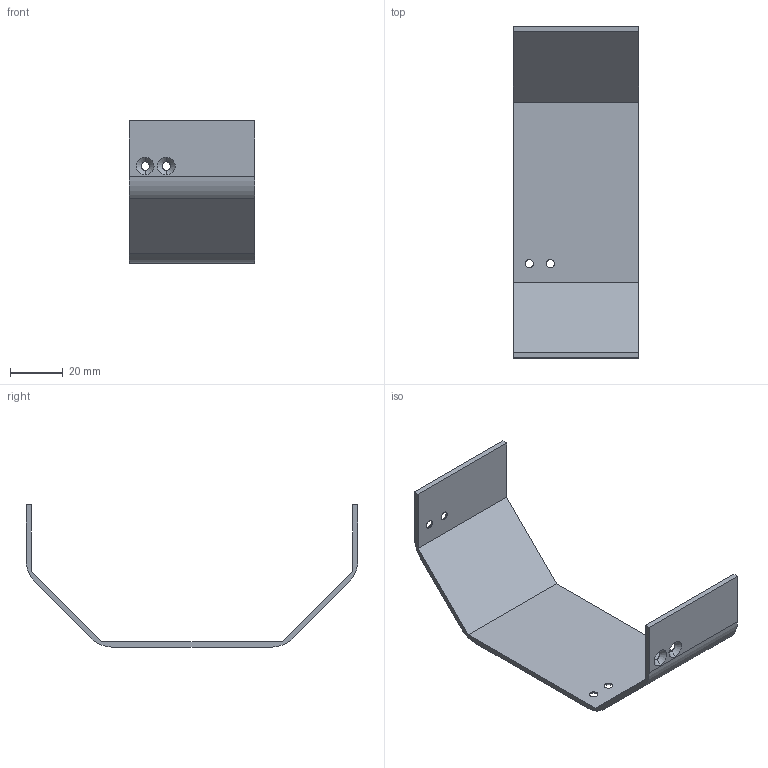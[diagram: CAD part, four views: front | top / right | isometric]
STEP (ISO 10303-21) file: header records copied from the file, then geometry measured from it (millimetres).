
FILE_DESCRIPTION((''),'2;1');
FILE_NAME('KC-D-107L_L_COVER_1','2025-07-12T15:06:34',('Administrator'),(''),'CREO PARAMETRIC BY PTC INC, 2022073','CREO PARAMETRIC BY PTC INC, 2022073','');
FILE_SCHEMA(('CONFIG_CONTROL_DESIGN'));
Length unit declared in the file: millimetre
Products named in the file (1): KC-D-107L_L_COVER_1
Bounding box: 47.5 x 126 x 54 mm (x, y, z)
Volume: 17986 mm3; surface area: 19643.6 mm2
Topology: 1 solids, 1 shells, 42 faces, 114 edges, 72 vertices
Faces by surface type: cylinder 16, plane 14, cone 12
Entity records: 1399 total; most frequent: DIRECTION 242, CARTESIAN_POINT 241, ORIENTED_EDGE 228, EDGE_CURVE 114, AXIS2_PLACEMENT_3D 88, VERTEX_POINT 72, VECTOR 66, LINE 66
